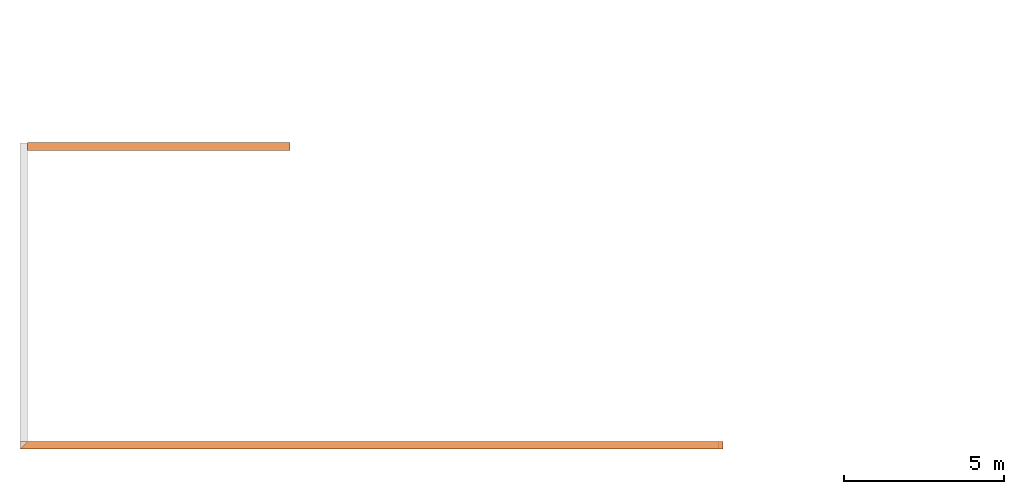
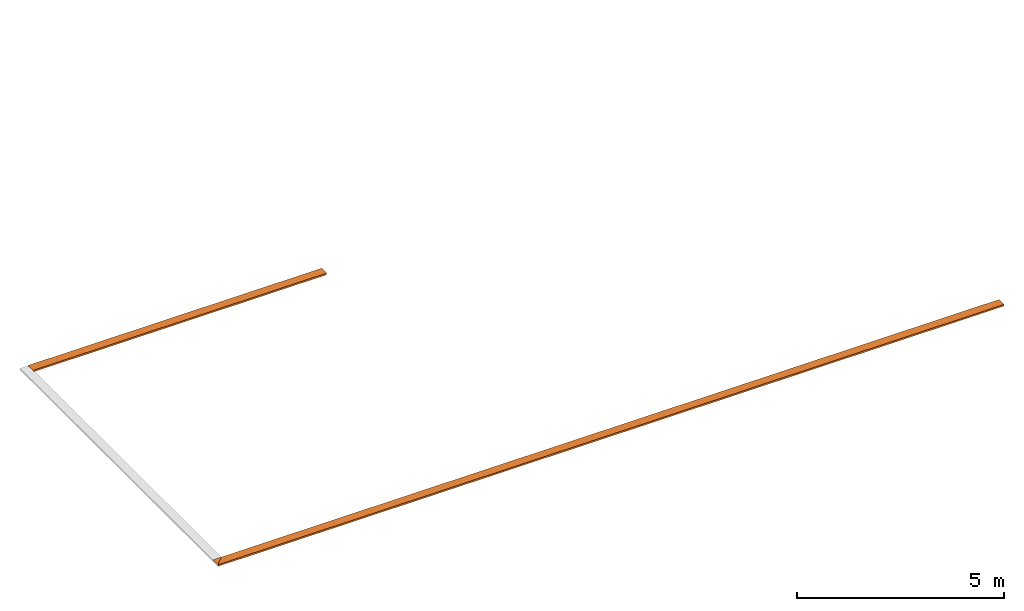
# One storey, part 3 of 4: 4 proxies.
"""IFC2X3 building model written with IfcOpenShell, lengths in centimetres."""

from ifc_helpers import new_model, entity, si_unit, converted_unit, derived_unit, direction, frame, origin, place, context, subcontext, project, spatial, polyline, outline, extrude, faceted_brep, element, save


model = new_model("IFC2X3")

# Units and contexts
model_context = context("Model", 3, precision=0.001, world=origin(), true_north=direction((6.12303176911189e-17, 1.0)))
body_context = subcontext(model_context, "Body", "Model", "MODEL_VIEW")
ifc_project = project(units=[si_unit("LENGTHUNIT", "METRE", prefix="CENTI"), si_unit("AREAUNIT", "SQUARE_METRE"), si_unit("VOLUMEUNIT", "CUBIC_METRE"), converted_unit("PLANEANGLEUNIT", "DEGREE", entity("IfcRatioMeasure", 0.0174532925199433), si_unit("PLANEANGLEUNIT", "RADIAN"), dimensions=[0, 0, 0, 0, 0, 0, 0]), si_unit("MASSUNIT", "GRAM", prefix="KILO"), si_unit("TIMEUNIT", "SECOND"), si_unit("FREQUENCYUNIT", "HERTZ"), si_unit("THERMODYNAMICTEMPERATUREUNIT", "DEGREE_CELSIUS"), derived_unit("THERMALTRANSMITTANCEUNIT", [(si_unit("MASSUNIT", "GRAM", prefix="KILO"), 1), (si_unit("THERMODYNAMICTEMPERATUREUNIT", "KELVIN"), -1), (si_unit("TIMEUNIT", "SECOND"), -3)]), derived_unit("VOLUMETRICFLOWRATEUNIT", [(si_unit("LENGTHUNIT", "METRE"), 3), (si_unit("TIMEUNIT", "SECOND"), -1)]), si_unit("ELECTRICCURRENTUNIT", "AMPERE"), si_unit("ELECTRICVOLTAGEUNIT", "VOLT"), si_unit("POWERUNIT", "WATT"), si_unit("FORCEUNIT", "NEWTON", prefix="KILO"), si_unit("ILLUMINANCEUNIT", "LUX"), si_unit("LUMINOUSFLUXUNIT", "LUMEN"), si_unit("LUMINOUSINTENSITYUNIT", "CANDELA"), derived_unit("USERDEFINED", [(si_unit("MASSUNIT", "GRAM", prefix="KILO"), -1), (si_unit("LENGTHUNIT", "METRE"), -2), (si_unit("TIMEUNIT", "SECOND"), 3), (si_unit("LUMINOUSFLUXUNIT", "LUMEN"), 1)]), derived_unit("LINEARVELOCITYUNIT", [(si_unit("LENGTHUNIT", "METRE"), 1), (si_unit("TIMEUNIT", "SECOND"), -1)]), si_unit("PRESSUREUNIT", "PASCAL"), derived_unit("USERDEFINED", [(si_unit("LENGTHUNIT", "METRE"), -2), (si_unit("MASSUNIT", "GRAM", prefix="KILO"), 1), (si_unit("TIMEUNIT", "SECOND"), -2)])], contexts=[model_context])

# Site, building, storey
site_placement = place(None, frame((8.62739174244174, -249.285249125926, 0.0)))
site = spatial("IfcSite", under=ifc_project, at=site_placement, Name="Default", CompositionType="ELEMENT")
building_placement = place(site_placement, origin())
building = spatial("IfcBuilding", under=site, at=building_placement, CompositionType="ELEMENT")
storey_placement = place(building_placement, frame((0.0, 0.0, 724.0)))
storey = spatial("IfcBuildingStorey", under=building, at=storey_placement, Name="724", CompositionType="ELEMENT", Elevation=724.0)

# Proxies
proxy_1_placement = place(storey_placement, frame((-0.999999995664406, -1.0, -7.0)))
element("IfcBuildingElementProxy", 1, at=proxy_1_placement, inside=storey, context=body_context, shape_type="Brep", body=[
    faceted_brep([(2189.90482780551, 23.0, 5.0), (2189.90482780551, 12.0, 5.0), (2189.90482780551, 0.0, 5.0), (2189.90482780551, 0.0, 0.0), (2189.90482780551, 1.0, 0.0), (2189.90482780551, 1.0, 4.0), (2189.90482780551, 23.0, 4.0), (2189.90482780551, 23.0, 0.0), (2189.90482780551, 24.0, 0.0), (2189.90482780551, 24.0, 5.0), (23.0, 23.0, 5.0), (24.0, 24.0, 5.0), (24.0, 24.0, 0.0), (23.0, 23.0, 0.0), (23.0, 23.0, 4.0), (1.0, 1.0, 4.0), (1.0, 1.0, 0.0), (0.0, 0.0, 0.0), (0.0, 0.0, 5.0), (12.0, 12.0, 5.0)], [[[0, 1, 2, 3, 4, 5, 6, 7, 8, 9]], [[10, 11, 12, 13, 14, 15, 16, 17, 18, 19]], [[1, 0, 10, 19]], [[2, 1, 19, 18]], [[3, 2, 18, 17]], [[4, 3, 17, 16]], [[5, 4, 16, 15]], [[6, 5, 15, 14]], [[7, 6, 14, 13]], [[8, 7, 13, 12]], [[9, 8, 12, 11]], [[0, 9, 11, 10]]]),
])
proxy_2_placement = place(storey_placement, origin())
element("IfcBuildingElementProxy", 2, at=proxy_2_placement, inside=storey, context=body_context, shape_type="SweptSolid", body=[
    extrude(outline(polyline([(9.90000000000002, -2.20000000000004), (10.9, -2.20000000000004), (10.9, 2.80000000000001), (9.90000000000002, 2.80000000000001), (9.90000000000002, -1.19999999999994), (-12.1, -1.19999999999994), (-12.1, 2.80000000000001), (-13.0999999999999, 2.80000000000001), (-13.0999999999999, -2.20000000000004), (-1.09999999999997, -2.20000000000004), (9.90000000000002, -2.20000000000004)])), frame((22.0, 940.9, -4.19999999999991), z_axis=(1.0, 0.0, 0.0), x_axis=(0.0, -1.0, 0.0)), (0.0, 0.0, 1.0), 817.904827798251),
])
proxy_3_placement = place(storey_placement, origin())
element("IfcBuildingElementProxy", 3, at=proxy_3_placement, inside=storey, context=body_context, shape_type="SweptSolid", body=[
    extrude(outline(polyline([(-9.9, -2.20000000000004), (1.1, -2.20000000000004), (13.1, -2.20000000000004), (13.1, 2.80000000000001), (12.1, 2.80000000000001), (12.1, -1.19999999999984), (-9.9, -1.19999999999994), (-9.9, 2.80000000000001), (-10.9, 2.80000000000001), (-10.9, -2.20000000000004), (-9.9, -2.20000000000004)])), frame((4.33493369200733e-09, 12.0999999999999, -4.19999999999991), z_axis=(1.0, 0.0, 0.0), x_axis=(0.0, -1.0, 0.0)), (0.0, 0.0, 1.0), 2174.90482780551),
])
proxy_4_placement = place(storey_placement, origin())
element("IfcBuildingElementProxy", 4, at=proxy_4_placement, inside=storey, context=body_context, shape_type="SweptSolid", body=[
    extrude(outline(polyline([(10.0, -1.91666666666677), (11.0, -1.91666666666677), (11.0, -0.916666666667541), (11.0, 3.08333333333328), (10.0, 3.08333333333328), (10.0, -0.916666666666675), (-12.0, -0.916666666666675), (-12.0, 3.08333333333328), (-13.0, 3.08333333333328), (-13.0, -1.91666666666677), (-12.0, -1.91666666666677), (-1.0, -1.91666666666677), (10.0, -1.91666666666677)])), frame((22.0, 941.0, -3.91666666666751), z_axis=(1.0, 0.0, 0.0), x_axis=(0.0, -1.0, 0.0)), (0.0, 0.0, 1.0), 817.904827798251),
])

save(model, "model.ifc")
